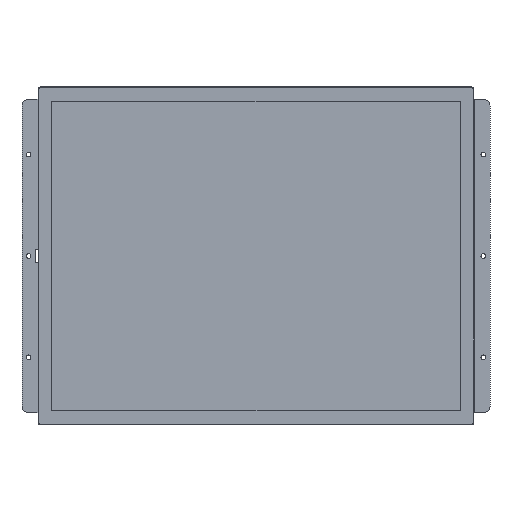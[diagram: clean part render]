
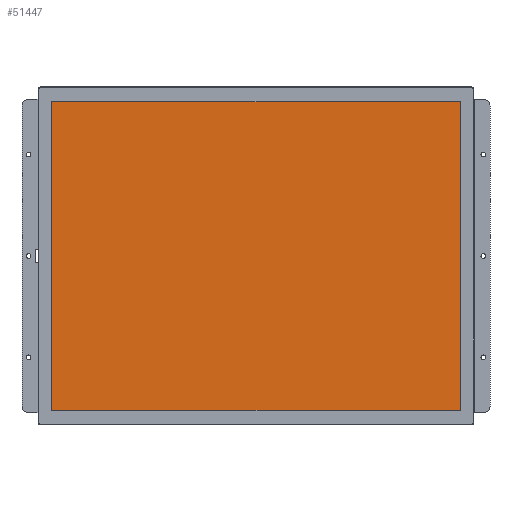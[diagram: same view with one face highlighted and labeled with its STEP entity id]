
A CAD part, front view. The second image highlights one B-rep face of the part: STEP entity #51447.
In plain terms, the highlighted planar face has unit normal (0, -1, 0).
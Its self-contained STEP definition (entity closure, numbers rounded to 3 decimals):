
#22469=DIRECTION('',(1.,0.,0.));
#22470=VECTOR('',#22469,310.8);
#22471=CARTESIAN_POINT('',(-155.464,-12.4,117.448));
#22472=LINE('',#22471,#22470);
#22473=DIRECTION('',(0.,0.,-1.));
#22474=VECTOR('',#22473,237.5);
#22475=CARTESIAN_POINT('',(155.336,-12.4,117.448));
#22476=LINE('',#22475,#22474);
#22477=DIRECTION('',(-1.,0.,0.));
#22478=VECTOR('',#22477,310.8);
#22479=CARTESIAN_POINT('',(155.336,-12.4,-120.052));
#22480=LINE('',#22479,#22478);
#22481=DIRECTION('',(0.,0.,1.));
#22482=VECTOR('',#22481,237.5);
#22483=CARTESIAN_POINT('',(-155.464,-12.4,-120.052));
#22484=LINE('',#22483,#22482);
#32159=CARTESIAN_POINT('',(155.336,-12.4,117.448));
#32160=VERTEX_POINT('',#32159);
#32161=CARTESIAN_POINT('',(-155.464,-12.4,117.448));
#32162=VERTEX_POINT('',#32161);
#32163=CARTESIAN_POINT('',(155.336,-12.4,-120.052));
#32164=VERTEX_POINT('',#32163);
#32165=CARTESIAN_POINT('',(-155.464,-12.4,-120.052));
#32166=VERTEX_POINT('',#32165);
#51436=CARTESIAN_POINT('',(-0.064,-12.4,-1.302));
#51437=DIRECTION('',(0.,-1.,0.));
#51438=DIRECTION('',(1.,0.,0.));
#51439=AXIS2_PLACEMENT_3D('',#51436,#51437,#51438);
#51440=PLANE('',#51439);
#51441=ORIENTED_EDGE('',*,*,#51388,.T.);
#51442=ORIENTED_EDGE('',*,*,#51403,.T.);
#51443=ORIENTED_EDGE('',*,*,#51417,.T.);
#51444=ORIENTED_EDGE('',*,*,#51430,.T.);
#51445=EDGE_LOOP('',(#51441,#51442,#51443,#51444));
#51446=FACE_OUTER_BOUND('',#51445,.F.);
#51388=EDGE_CURVE('',#32162,#32160,#22472,.T.);
#51403=EDGE_CURVE('',#32160,#32164,#22476,.T.);
#51417=EDGE_CURVE('',#32164,#32166,#22480,.T.);
#51430=EDGE_CURVE('',#32166,#32162,#22484,.T.);
#51447=ADVANCED_FACE('',(#51446),#51440,.T.);
